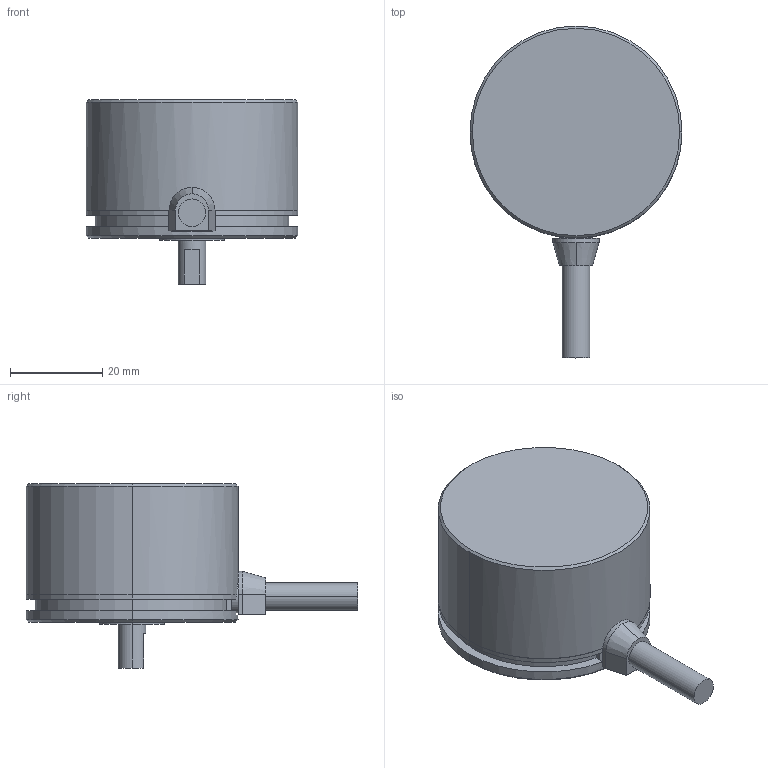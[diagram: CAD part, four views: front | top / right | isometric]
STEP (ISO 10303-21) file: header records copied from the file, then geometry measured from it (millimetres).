
FILE_DESCRIPTION(('STEP AP203'),'1');
FILE_NAME('C:/Users/MTL/Desktop/MAS-36.step','2017-06-20T23:51:07',(' '),(' '),'Spatial InterOp 3D',' ',' ');
FILE_SCHEMA(('CONFIG_CONTROL_DESIGN'));
Length unit declared in the file: millimetre
Products named in the file (11): 1; 2; 3; 4; 5; 6; 7; 8; 9; 10; 11
Bounding box: 46 x 72 x 40 mm (x, y, z)
Volume: 29086 mm3; surface area: 23239 mm2
Topology: 11 solids, 11 shells, 125 faces, 282 edges, 182 vertices
Faces by surface type: cylinder 66, plane 47, cone 12
Entity records: 4146 total; most frequent: CARTESIAN_POINT 726, DIRECTION 688, ORIENTED_EDGE 552, AXIS2_PLACEMENT_3D 280, EDGE_CURVE 276, VERTEX_POINT 182, EDGE_LOOP 150, CIRCLE 144
